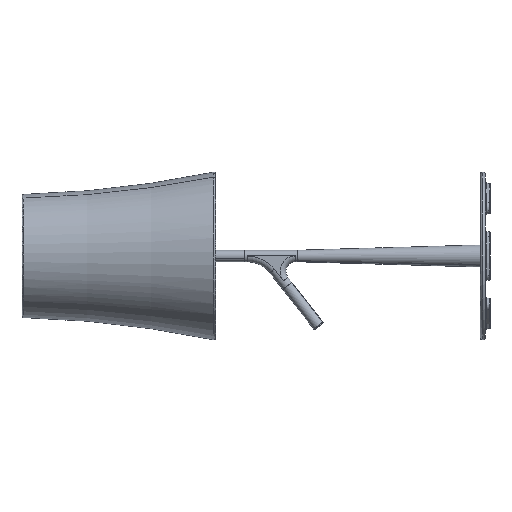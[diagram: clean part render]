
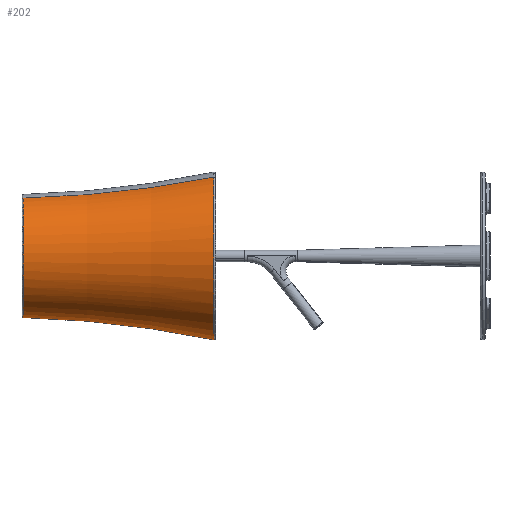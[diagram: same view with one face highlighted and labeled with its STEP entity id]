
A CAD part, left-side view. The second image highlights one B-rep face of the part: STEP entity #202.
In plain terms, the highlighted toroidal (fillet/blend) face has major radius 1183.62 mm and minor radius 1120 mm.
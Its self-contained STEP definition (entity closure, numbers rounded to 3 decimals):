
#12 = ORIENTED_EDGE ( 'NONE', *, *, #3975, .T. ) ;
#20 = CIRCLE ( 'NONE', #5206, 1120. ) ;
#184 = CARTESIAN_POINT ( 'NONE',  ( -4.191, 1.497, 64.04 ) ) ;
#202 = ADVANCED_FACE ( 'NONE', ( #1213 ), #7243, .F. ) ;
#382 = VERTEX_POINT ( 'NONE', #7901 ) ;
#493 = DIRECTION ( 'NONE',  ( 0., -1., 0. ) ) ;
#512 = CARTESIAN_POINT ( 'NONE',  ( -64.04, 1.497, -4.191 ) ) ;
#705 = CARTESIAN_POINT ( 'NONE',  ( -39.064, 1.497, -50.919 ) ) ;
#782 = AXIS2_PLACEMENT_3D ( 'NONE', #1119, #4035, #6928 ) ;
#900 = CARTESIAN_POINT ( 'NONE',  ( -57.561, 1.497, 28.379 ) ) ;
#908 = CARTESIAN_POINT ( 'NONE',  ( -57.62, 199.534, 65.69 ) ) ;
#947 = CARTESIAN_POINT ( 'NONE',  ( -42.319, 1.497, 48.247 ) ) ;
#1052 = ORIENTED_EDGE ( 'NONE', *, *, #9039, .T. ) ;
#1095 = CARTESIAN_POINT ( 'NONE',  ( -11.413, 199.534, -86.631 ) ) ;
#1119 = CARTESIAN_POINT ( 'NONE',  ( 0., -29.028, -1183.624 ) ) ;
#1141 = CARTESIAN_POINT ( 'NONE',  ( -5.707, 199.534, -87.193 ) ) ;
#1213 = FACE_OUTER_BOUND ( 'NONE', #5242, .T. ) ;
#1284 = CARTESIAN_POINT ( 'NONE',  ( -48.247, 1.497, -42.319 ) ) ;
#1812 = CARTESIAN_POINT ( 'NONE',  ( -78.372, 199.534, -38.64 ) ) ;
#1821 = VERTEX_POINT ( 'NONE', #5747 ) ;
#1948 = CARTESIAN_POINT ( 'NONE',  ( 0., 199.534, -87.193 ) ) ;
#2146 = CARTESIAN_POINT ( 'NONE',  ( -4.191, 1.497, -64.04 ) ) ;
#2196 = CARTESIAN_POINT ( 'NONE',  ( -63.627, 1.497, -8.383 ) ) ;
#2388 = CARTESIAN_POINT ( 'NONE',  ( -48.247, 1.497, 42.319 ) ) ;
#2534 = CARTESIAN_POINT ( 'NONE',  ( -57.62, 199.534, -65.69 ) ) ;
#2669 = CARTESIAN_POINT ( 'NONE',  ( -69.328, 199.534, -53.187 ) ) ;
#2905 = CARTESIAN_POINT ( 'NONE',  ( -55.576, 1.497, -32.094 ) ) ;
#3022 = VERTEX_POINT ( 'NONE', #8108 ) ;
#3057 = CARTESIAN_POINT ( 'NONE',  ( -5.707, 199.534, 87.193 ) ) ;
#3101 = CARTESIAN_POINT ( 'NONE',  ( -28.379, 1.497, 57.561 ) ) ;
#3227 = B_SPLINE_CURVE_WITH_KNOTS ( 'NONE', 3,
 ( #6671, #3057, #5963, #8873, #5244, #8145, #4541, #7430, #908, #8512, #3965, #6990, #5467, #5562, #4813, #8467, #3329, #4768, #4012, #5421, #4057, #1812, #6195, #2669, #9195, #2534, #3245, #7706, #6329, #6860, #8423, #1095, #1141, #1948 ),
 .UNSPECIFIED., .F., .F.,
 ( 4, 2, 2, 2, 2, 2, 2, 2, 2, 2, 2, 2, 2, 2, 2, 2, 4 ),
 ( 0., 0.031, 0.063, 0.094, 0.125, 0.156, 0.188, 0.219, 0.25, 0.281, 0.313, 0.344, 0.375, 0.406, 0.438, 0.469, 0.5 ),
 .UNSPECIFIED. ) ;
#3245 = CARTESIAN_POINT ( 'NONE',  ( -53.187, 199.534, -69.328 ) ) ;
#3329 = CARTESIAN_POINT ( 'NONE',  ( -87.193, 199.534, 5.707 ) ) ;
#3431 = CARTESIAN_POINT ( 'NONE',  ( -64.04, 1.497, 4.191 ) ) ;
#3526 = CARTESIAN_POINT ( 'NONE',  ( 0., 1.497, -64.04 ) ) ;
#3623 = CARTESIAN_POINT ( 'NONE',  ( -42.319, 1.497, -48.247 ) ) ;
#3965 = CARTESIAN_POINT ( 'NONE',  ( -69.328, 199.534, 53.187 ) ) ;
#3975 = EDGE_CURVE ( 'NONE', #382, #7176, #8845, .T. ) ;
#4012 = CARTESIAN_POINT ( 'NONE',  ( -86.631, 199.534, -11.413 ) ) ;
#4035 = DIRECTION ( 'NONE',  ( -1., 0., 0. ) ) ;
#4057 = CARTESIAN_POINT ( 'NONE',  ( -82.74, 199.534, -28.095 ) ) ;
#4124 = CARTESIAN_POINT ( 'NONE',  ( 0., -29.028, 1183.624 ) ) ;
#4393 = CARTESIAN_POINT ( 'NONE',  ( -39.064, 1.497, 50.919 ) ) ;
#4541 = CARTESIAN_POINT ( 'NONE',  ( -43.697, 199.534, 75.669 ) ) ;
#4644 = EDGE_CURVE ( 'NONE', #382, #1821, #6409, .T. ) ;
#4664 = DIRECTION ( 'NONE',  ( 0., 0., -1. ) ) ;
#4768 = CARTESIAN_POINT ( 'NONE',  ( -87.193, 199.534, -5.707 ) ) ;
#4784 = EDGE_CURVE ( 'NONE', #7176, #3022, #20, .T. ) ;
#4813 = CARTESIAN_POINT ( 'NONE',  ( -84.405, 199.534, 22.608 ) ) ;
#4913 = CARTESIAN_POINT ( 'NONE',  ( -20.635, 1.497, -60.769 ) ) ;
#5100 = CARTESIAN_POINT ( 'NONE',  ( -61.992, 1.497, -16.604 ) ) ;
#5192 = CARTESIAN_POINT ( 'NONE',  ( -20.635, 1.497, 60.769 ) ) ;
#5206 = AXIS2_PLACEMENT_3D ( 'NONE', #4124, #7061, #9267 ) ;
#5242 = EDGE_LOOP ( 'NONE', ( #12, #6998, #1052, #6267 ) ) ;
#5244 = CARTESIAN_POINT ( 'NONE',  ( -28.095, 199.534, 82.74 ) ) ;
#5300 = CARTESIAN_POINT ( 'NONE',  ( 0., 1.497, 64.04 ) ) ;
#5421 = CARTESIAN_POINT ( 'NONE',  ( -84.405, 199.534, -22.608 ) ) ;
#5467 = CARTESIAN_POINT ( 'NONE',  ( -78.372, 199.534, 38.64 ) ) ;
#5562 = CARTESIAN_POINT ( 'NONE',  ( -82.74, 199.534, 28.095 ) ) ;
#5747 = CARTESIAN_POINT ( 'NONE',  ( 0., 199.534, -87.193 ) ) ;
#5809 = CARTESIAN_POINT ( 'NONE',  ( -57.561, 1.497, -28.379 ) ) ;
#5905 = CARTESIAN_POINT ( 'NONE',  ( -60.769, 1.497, 20.635 ) ) ;
#5963 = CARTESIAN_POINT ( 'NONE',  ( -11.413, 199.534, 86.631 ) ) ;
#6195 = CARTESIAN_POINT ( 'NONE',  ( -75.669, 199.534, -43.697 ) ) ;
#6267 = ORIENTED_EDGE ( 'NONE', *, *, #4644, .F. ) ;
#6329 = CARTESIAN_POINT ( 'NONE',  ( -38.64, 199.534, -78.372 ) ) ;
#6334 = CARTESIAN_POINT ( 'NONE',  ( -63.627, 1.497, 8.383 ) ) ;
#6409 = CIRCLE ( 'NONE', #782, 1120. ) ;
#6430 = CARTESIAN_POINT ( 'NONE',  ( -28.379, 1.497, -57.561 ) ) ;
#6572 = CARTESIAN_POINT ( 'NONE',  ( -8.383, 1.497, 63.627 ) ) ;
#6671 = CARTESIAN_POINT ( 'NONE',  ( 0., 199.534, 87.193 ) ) ;
#6860 = CARTESIAN_POINT ( 'NONE',  ( -28.095, 199.534, -82.74 ) ) ;
#6928 = DIRECTION ( 'NONE',  ( 0., 0., 1. ) ) ;
#6990 = CARTESIAN_POINT ( 'NONE',  ( -75.669, 199.534, 43.697 ) ) ;
#6998 = ORIENTED_EDGE ( 'NONE', *, *, #4784, .T. ) ;
#7022 = CARTESIAN_POINT ( 'NONE',  ( 0., -29.028, 0. ) ) ;
#7061 = DIRECTION ( 'NONE',  ( 1., 0., 0. ) ) ;
#7176 = VERTEX_POINT ( 'NONE', #5300 ) ;
#7243 = TOROIDAL_SURFACE ( 'NONE', #9382, 1183.624, 1120. ) ;
#7278 = CARTESIAN_POINT ( 'NONE',  ( -61.992, 1.497, 16.604 ) ) ;
#7375 = CARTESIAN_POINT ( 'NONE',  ( 0., 1.497, 64.04 ) ) ;
#7422 = CARTESIAN_POINT ( 'NONE',  ( -50.919, 1.497, 39.064 ) ) ;
#7430 = CARTESIAN_POINT ( 'NONE',  ( -53.187, 199.534, 69.328 ) ) ;
#7706 = CARTESIAN_POINT ( 'NONE',  ( -43.697, 199.534, -75.669 ) ) ;
#7897 = CARTESIAN_POINT ( 'NONE',  ( -50.919, 1.497, -39.064 ) ) ;
#7901 = CARTESIAN_POINT ( 'NONE',  ( 0., 1.497, -64.04 ) ) ;
#7948 = CARTESIAN_POINT ( 'NONE',  ( -8.383, 1.497, -63.627 ) ) ;
#8045 = CARTESIAN_POINT ( 'NONE',  ( -55.576, 1.497, 32.094 ) ) ;
#8108 = CARTESIAN_POINT ( 'NONE',  ( 0., 199.534, 87.193 ) ) ;
#8131 = CARTESIAN_POINT ( 'NONE',  ( -16.604, 1.497, -61.992 ) ) ;
#8145 = CARTESIAN_POINT ( 'NONE',  ( -38.64, 199.534, 78.372 ) ) ;
#8423 = CARTESIAN_POINT ( 'NONE',  ( -22.608, 199.534, -84.405 ) ) ;
#8467 = CARTESIAN_POINT ( 'NONE',  ( -86.631, 199.534, 11.413 ) ) ;
#8512 = CARTESIAN_POINT ( 'NONE',  ( -65.69, 199.534, 57.62 ) ) ;
#8718 = CARTESIAN_POINT ( 'NONE',  ( -60.769, 1.497, -20.635 ) ) ;
#8845 = B_SPLINE_CURVE_WITH_KNOTS ( 'NONE', 3,
 ( #3526, #2146, #7948, #8131, #4913, #6430, #9339, #705, #3623, #1284, #7897, #2905, #5809, #8718, #5100, #2196, #512, #3431, #6334, #7278, #5905, #900, #8045, #7422, #2388, #947, #4393, #8910, #3101, #5192, #8863, #6572, #184, #7375 ),
 .UNSPECIFIED., .F., .F.,
 ( 4, 2, 2, 2, 2, 2, 2, 2, 2, 2, 2, 2, 2, 2, 2, 2, 4 ),
 ( 0.5, 0.531, 0.563, 0.594, 0.625, 0.656, 0.688, 0.719, 0.75, 0.781, 0.813, 0.844, 0.875, 0.906, 0.938, 0.969, 1. ),
 .UNSPECIFIED. ) ;
#8863 = CARTESIAN_POINT ( 'NONE',  ( -16.604, 1.497, 61.992 ) ) ;
#8873 = CARTESIAN_POINT ( 'NONE',  ( -22.608, 199.534, 84.405 ) ) ;
#8910 = CARTESIAN_POINT ( 'NONE',  ( -32.094, 1.497, 55.576 ) ) ;
#9039 = EDGE_CURVE ( 'NONE', #3022, #1821, #3227, .T. ) ;
#9195 = CARTESIAN_POINT ( 'NONE',  ( -65.69, 199.534, -57.62 ) ) ;
#9267 = DIRECTION ( 'NONE',  ( 0., 0., -1. ) ) ;
#9339 = CARTESIAN_POINT ( 'NONE',  ( -32.094, 1.497, -55.576 ) ) ;
#9382 = AXIS2_PLACEMENT_3D ( 'NONE', #7022, #493, #4664 ) ;
